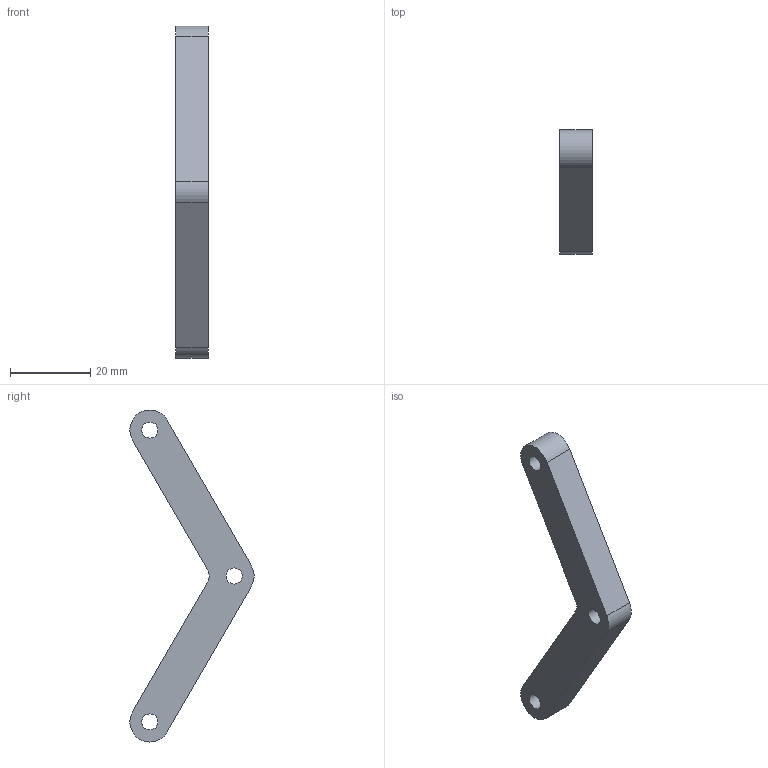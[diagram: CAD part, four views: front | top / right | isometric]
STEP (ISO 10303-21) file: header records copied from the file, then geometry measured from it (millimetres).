
FILE_DESCRIPTION(/* description */ ('','CAx-IF Rec.Pracs.---Representation and Presentation of Product Manufacturing Information (PMI)---4.0---2014-10-13'),/* implementation_level */ '2;1');
FILE_NAME(/* name */ 'GOEWS 8mm Wall Offset.step',/* time_stamp */ '2024-11-29T10:27:04-05:00',/* author */ (''),/* organization */ (''),/* preprocessor_version */ 'ST-DEVELOPER v20',/* originating_system */ 'Autodesk Translation Framework v13.20.0.188',/* authorisation */ '');
FILE_SCHEMA (('AP242_MANAGED_MODEL_BASED_3D_ENGINEERING_MIM_LF { 1 0 10303 442 1 1 4 }'));
Length unit declared in the file: millimetre
Products named in the file (1): GOEWS 8mm Wall Offset
Bounding box: 8 x 31 x 82.75 mm (x, y, z)
Volume: 7039.8 mm3; surface area: 3650 mm2
Topology: 1 solids, 1 shells, 13 faces, 33 edges, 22 vertices
Faces by surface type: cylinder 7, plane 6
Full cylindrical faces by diameter (mm): 4 x3
Entity records: 446 total; most frequent: DIRECTION 75, CARTESIAN_POINT 69, ORIENTED_EDGE 66, EDGE_CURVE 33, AXIS2_PLACEMENT_3D 28, VERTEX_POINT 22, EDGE_LOOP 19, LINE 19
